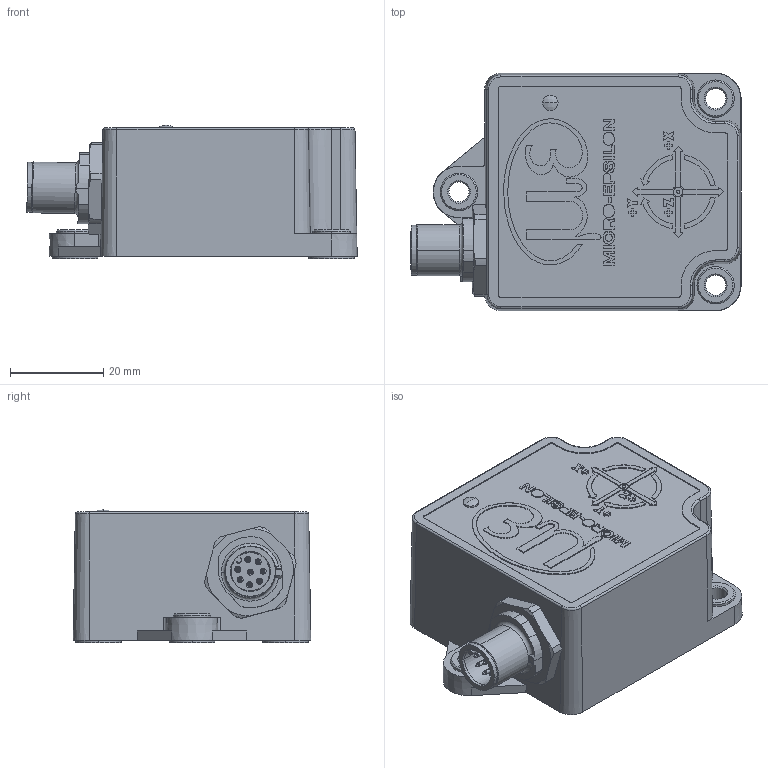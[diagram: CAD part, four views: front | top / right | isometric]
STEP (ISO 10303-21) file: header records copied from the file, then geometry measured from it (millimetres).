
FILE_DESCRIPTION (( 'STEP AP214' ), '1' );
FILE_NAME ('AccIS12 V3.3_LED_1xM12_einseitig_8pol_defeature.STEP', '2023-11-10T07:23:43', ( '' ), ( '' ), 'SwSTEP 2.0', 'SolidWorks 2019', '' );
FILE_SCHEMA (( 'AUTOMOTIVE_DESIGN' ));
Length unit declared in the file: millimetre
Products named in the file (1): AccIS12 V3.3_LED_1xM12_einseitig_8pol_defeature
Bounding box: 70.8 x 50.96 x 28.56 mm (x, y, z)
Volume: 72188.4 mm3; surface area: 14028.2 mm2
Topology: 1 solids, 4 shells, 737 faces, 1928 edges, 1256 vertices
Faces by surface type: plane 341, bspline 138, cylinder 127, cone 87, torus 42, sphere 2
Entity records: 25644 total; most frequent: CARTESIAN_POINT 5833, ORIENTED_EDGE 3856, DIRECTION 3325, EDGE_CURVE 1928, VERTEX_POINT 1256, LINE 1143, VECTOR 1143, AXIS2_PLACEMENT_3D 1091
